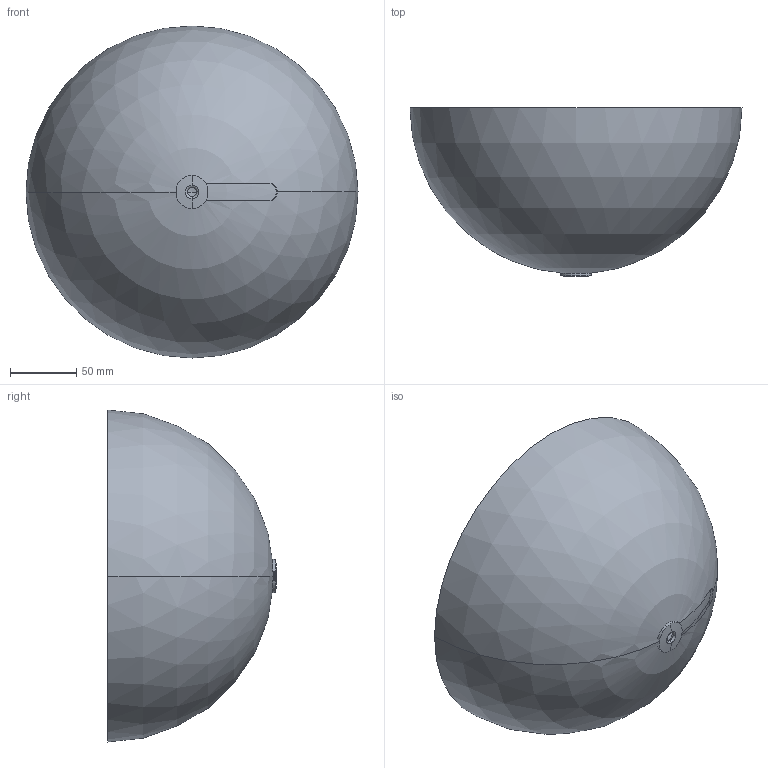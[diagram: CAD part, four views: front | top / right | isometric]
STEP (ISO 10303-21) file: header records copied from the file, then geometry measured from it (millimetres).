
FILE_DESCRIPTION((''),'2;1');
FILE_NAME('SOSPESA_250_SW0001','2025-05-14T08:51:26',('elena.baldelli'),(''),'CREO PARAMETRIC BY PTC INC, 2020354','CREO PARAMETRIC BY PTC INC, 2020354','');
FILE_SCHEMA(('CONFIG_CONTROL_DESIGN'));
Length unit declared in the file: millimetre
Products named in the file (1): SOSPESA_250_SW0001
Bounding box: 250 x 127.01 x 250 mm (x, y, z)
Surface area: 235803.8 mm2 (no closed solid volume)
Topology: 0 solids, 4 shells, 15 faces, 56 edges, 42 vertices
Faces by surface type: sphere 9, plane 2, cylinder 2, torus 2
Entity records: 653 total; most frequent: DIRECTION 134, CARTESIAN_POINT 111, ORIENTED_EDGE 78, AXIS2_PLACEMENT_3D 65, EDGE_CURVE 54, CIRCLE 50, VERTEX_POINT 42, EDGE_LOOP 16
